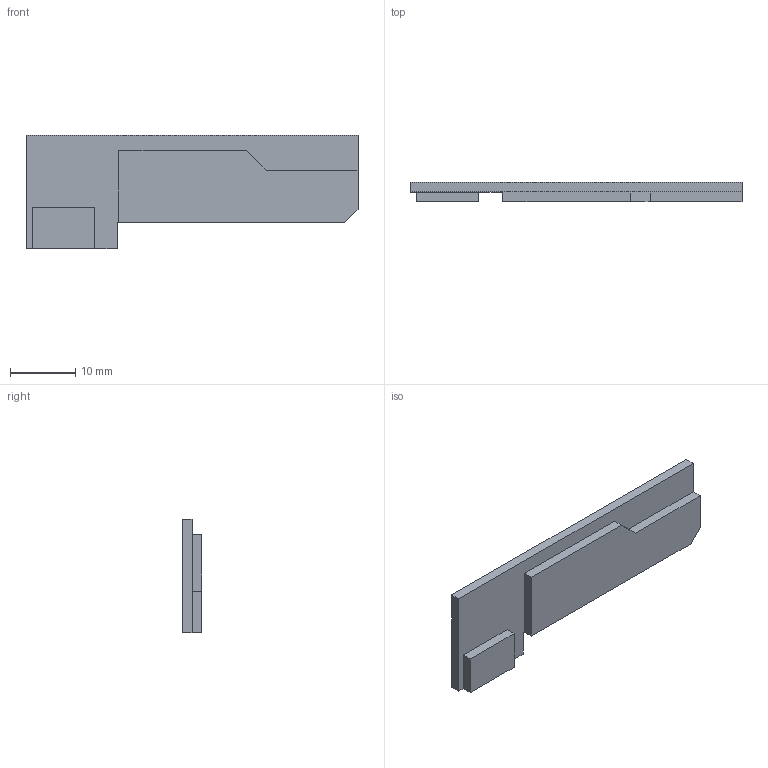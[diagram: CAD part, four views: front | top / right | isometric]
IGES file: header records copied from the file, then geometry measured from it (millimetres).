
Global section: file name: 2GB_mask; native system: unknown; preprocessor: unknown; author: unknown; organization: unknown; date: 20210225.165151; units: millimetre
Bounding box: 50.75 x 3 x 17.3 mm (x, y, z)
Volume: 1713 mm3; surface area: 1845.6 mm2
Topology: 1 solids, 1 shells, 18 faces, 48 edges, 32 vertices
Faces by surface type: bspline 18
